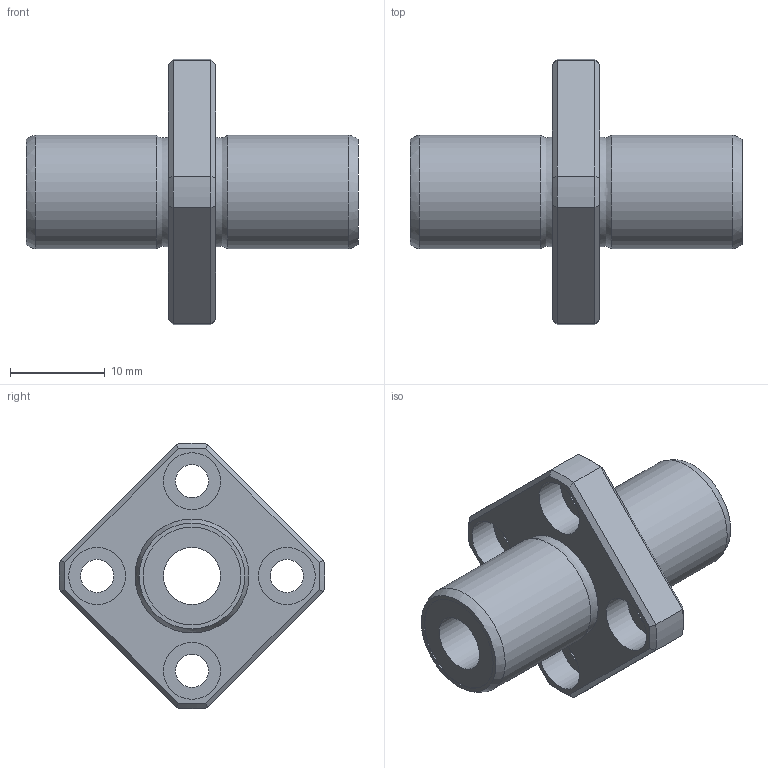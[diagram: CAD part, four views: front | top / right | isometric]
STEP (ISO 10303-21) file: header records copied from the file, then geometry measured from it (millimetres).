
FILE_DESCRIPTION((''),'2;1');
FILE_NAME('D:\製品 (図面)\カタログ用3D\リニアベアリング関連\STEP形式\LFDKC\LFDKC6.stp','2010-06-03T09:36:28',('Tsuchiya'),(''),'Autodesk Inventor 10','Autodesk Inventor 10','');
FILE_SCHEMA(('AUTOMOTIVE_DESIGN { 1 0 10303 214 1 1 1 1 }'));
Length unit declared in the file: millimetre
Products named in the file (1): LFDKC6
Bounding box: 35 x 27.98 x 27.98 mm (x, y, z)
Volume: 4274.9 mm3; surface area: 3281.9 mm2
Topology: 1 solids, 1 shells, 51 faces, 103 edges, 62 vertices
Faces by surface type: plane 22, cylinder 17, cone 8, bspline 4
Full cylindrical faces by diameter (mm): 3.5 x4, 6 x5, 10.3 x2, 12 x2
Entity records: 1457 total; most frequent: CARTESIAN_POINT 424, DIRECTION 212, ORIENTED_EDGE 172, AXIS2_PLACEMENT_3D 94, EDGE_CURVE 86, EDGE_LOOP 86, VERTEX_POINT 62, FACE_OUTER_BOUND 51
